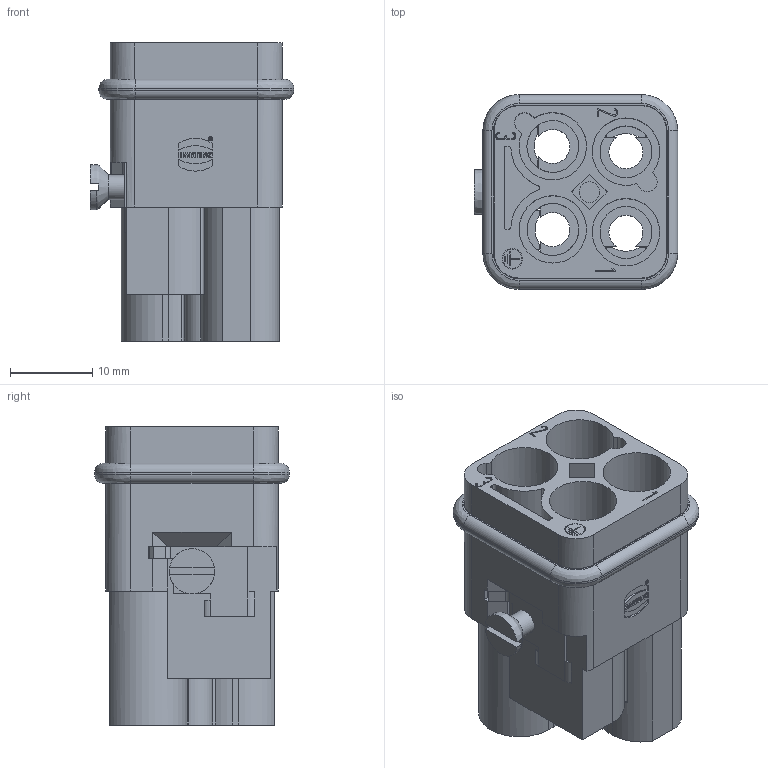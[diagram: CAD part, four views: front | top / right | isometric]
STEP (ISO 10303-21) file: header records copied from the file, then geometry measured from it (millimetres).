
FILE_DESCRIPTION(/* description */ (''),/* implementation_level */ '2;1');
FILE_NAME(/* name */ '100516800ugm000_e.stp',/* time_stamp */ '2022-03-14T16:41:37+01:00',/* author */ (''),/* organization */ (''),/* preprocessor_version */ 'ST-DEVELOPER v16.7',/* originating_system */ 'SIEMENS PLM Software NX 1911',/* authorisation */ '');
FILE_SCHEMA (('AUTOMOTIVE_DESIGN { 1 0 10303 214 3 1 1 1 }'));
Length unit declared in the file: millimetre
Products named in the file (1): 100516800ugm000_e
Bounding box: 24.75 x 23.7 x 36.25 mm (x, y, z)
Volume: 7980.4 mm3; surface area: 8029.9 mm2
Topology: 1 solids, 1 shells, 497 faces, 1337 edges, 888 vertices
Faces by surface type: plane 315, cylinder 77, extrusion 51, bspline 43, cone 11
Full cylindrical faces by diameter (mm): 0.455 x1, 0.538 x1, 0.8 x1, 0.854 x1, 2.331 x1, 2.5 x2, 3 x1, 3.05 x1, 6.248 x1, 6.3 x3, 8.2 x2
Entity records: 19858 total; most frequent: CARTESIAN_POINT 4646, ORIENTED_EDGE 2618, DIRECTION 2147, EDGE_CURVE 1309, VERTEX_POINT 875, VECTOR 861, LINE 810, AXIS2_PLACEMENT_3D 643
